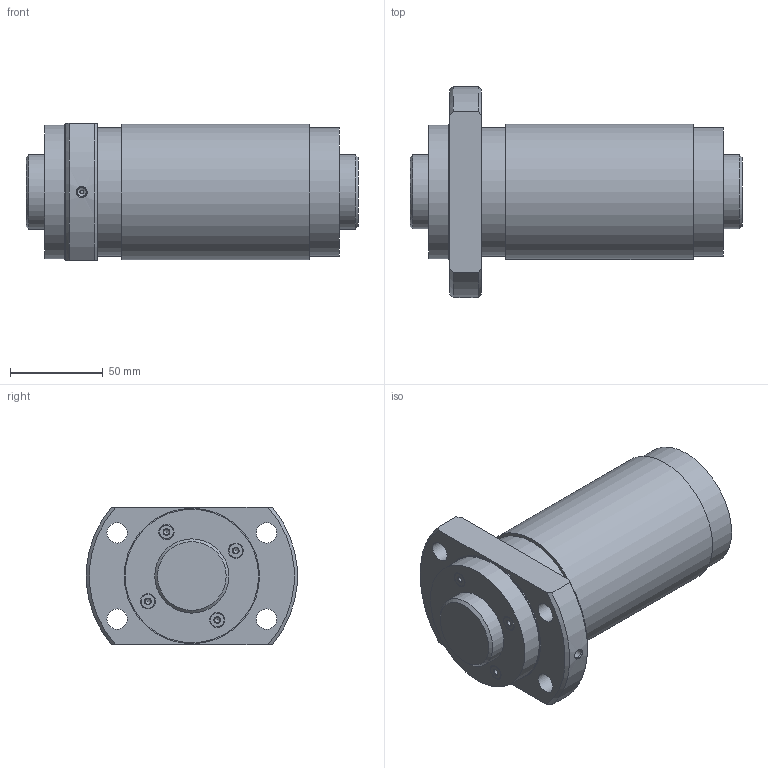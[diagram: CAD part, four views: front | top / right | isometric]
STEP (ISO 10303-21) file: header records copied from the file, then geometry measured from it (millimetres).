
FILE_DESCRIPTION(/* description */ ('STEP AP203'),/* implementation_level */ '2;1');
FILE_NAME(/* name */ 'WGF4080-3G1+179LC3_0_13_0_0',/* time_stamp */ '2025-01-16T06:27:14+01:00',/* author */ ('License CC BY-ND 4.0'),/* organization */ ('CADENAS'),/* preprocessor_version */ 'ST-DEVELOPER v19.3',/* originating_system */ 'PARTsolutions',/* authorisation */ ' ');
FILE_SCHEMA (('CONFIG_CONTROL_DESIGN'));
Length unit declared in the file: millimetre
Products named in the file (3): WGF4080-3G1+179LC3_0_13_0_0; 0130WGF4080-30Shaft; RR0130WGF4080-3Nut
Assembly tree (2 placements, depth 2):
  WGF4080-3G1+179LC3_0_13_0_0
    0130WGF4080-30Shaft
    RR0130WGF4080-3Nut
Bounding box: 179 x 113.82 x 74 mm (x, y, z)
Volume: 730646 mm3; surface area: 100276.5 mm2
Topology: 2 solids, 2 shells, 65 faces, 132 edges, 84 vertices
Faces by surface type: cylinder 26, plane 19, cone 16, torus 4
Full cylindrical faces by diameter (mm): 3 x4, 4.917 x1, 8 x4, 8.2 x4, 11 x4, 40 x2, 69.35 x2, 72 x1, 73 x2
Entity records: 1583 total; most frequent: DIRECTION 276, CARTESIAN_POINT 276, ORIENTED_EDGE 168, FACE_BOUND 134, AXIS2_PLACEMENT_3D 134, EDGE_LOOP 130, EDGE_CURVE 84, VERTEX_POINT 80
